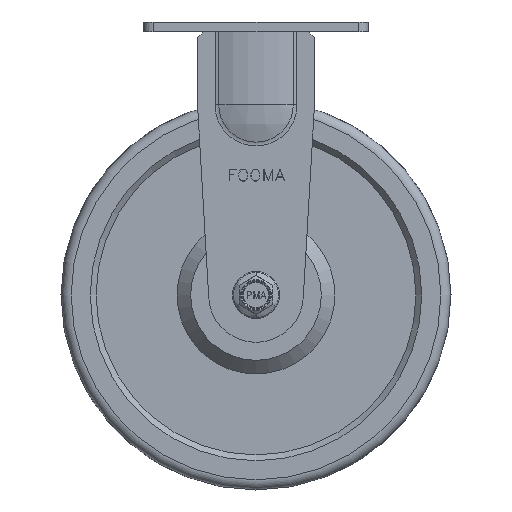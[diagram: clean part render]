
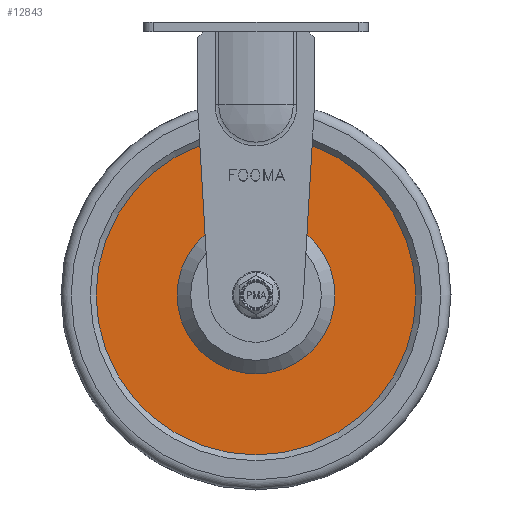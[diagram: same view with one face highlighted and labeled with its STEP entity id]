
A CAD part, front view. The second image highlights one B-rep face of the part: STEP entity #12843.
In plain terms, the highlighted planar face has unit normal (0, -1, 0).
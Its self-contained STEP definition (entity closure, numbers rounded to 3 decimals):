
#3533=FACE_BOUND('',#4293,.T.);
#3596=FACE_OUTER_BOUND('',#4292,.T.);
#4292=EDGE_LOOP('',(#8418,#8419));
#4293=EDGE_LOOP('',(#8420,#8421));
#5049=CIRCLE('',#13561,40.5);
#5050=CIRCLE('',#13562,40.5);
#5051=CIRCLE('',#13564,82.);
#5052=CIRCLE('',#13565,82.);
#5223=VERTEX_POINT('',#17770);
#5224=VERTEX_POINT('',#17771);
#5225=VERTEX_POINT('',#17776);
#5226=VERTEX_POINT('',#17777);
#6495=EDGE_CURVE('',#5223,#5224,#5049,.T.);
#6497=EDGE_CURVE('',#5224,#5223,#5050,.T.);
#6498=EDGE_CURVE('',#5225,#5226,#5051,.T.);
#6499=EDGE_CURVE('',#5226,#5225,#5052,.T.);
#8418=ORIENTED_EDGE('',*,*,#6498,.T.);
#8419=ORIENTED_EDGE('',*,*,#6499,.T.);
#8420=ORIENTED_EDGE('',*,*,#6495,.F.);
#8421=ORIENTED_EDGE('',*,*,#6497,.F.);
#12244=PLANE('',#13563);
#12843=ADVANCED_FACE('',(#3596,#3533),#12244,.T.);
#13561=AXIS2_PLACEMENT_3D('',#17772,#14410,#14411);
#13562=AXIS2_PLACEMENT_3D('',#17774,#14413,#14414);
#13563=AXIS2_PLACEMENT_3D('',#17775,#14415,#14416);
#13564=AXIS2_PLACEMENT_3D('',#17778,#14417,#14418);
#13565=AXIS2_PLACEMENT_3D('',#17779,#14419,#14420);
#14410=DIRECTION('center_axis',(0.,-1.,0.));
#14411=DIRECTION('ref_axis',(0.,0.,
-1.));
#14413=DIRECTION('center_axis',(0.,-1.,0.));
#14414=DIRECTION('ref_axis',(0.,0.,
-1.));
#14415=DIRECTION('center_axis',(0.,-1.,0.));
#14416=DIRECTION('ref_axis',(0.,0.,
-1.));
#14417=DIRECTION('center_axis',(0.,-1.,0.));
#14418=DIRECTION('ref_axis',(0.,0.,
-1.));
#14419=DIRECTION('center_axis',(0.,-1.,0.));
#14420=DIRECTION('ref_axis',(0.,0.,
-1.));
#17770=CARTESIAN_POINT('',(0.,-17.,-175.5));
#17771=CARTESIAN_POINT('',(0.,-17.,-94.5));
#17772=CARTESIAN_POINT('Origin',(0.,-17.,
-135.));
#17774=CARTESIAN_POINT('Origin',(0.,-17.,
-135.));
#17775=CARTESIAN_POINT('Origin',(0.,-17.,
-175.5));
#17776=CARTESIAN_POINT('',(0.,-17.,-217.));
#17777=CARTESIAN_POINT('',(0.,-17.,-53.));
#17778=CARTESIAN_POINT('Origin',(0.,-17.,
-135.));
#17779=CARTESIAN_POINT('Origin',(0.,-17.,
-135.));
